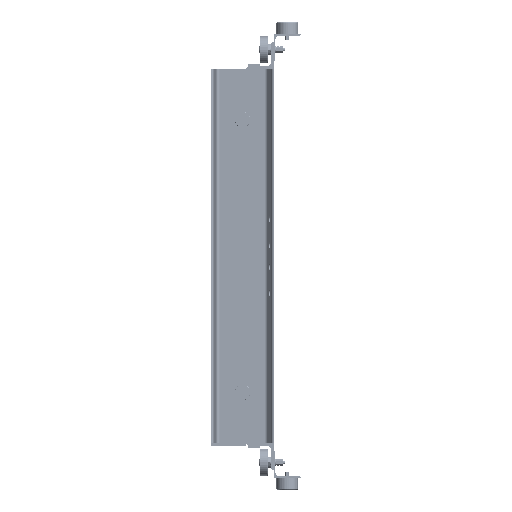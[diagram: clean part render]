
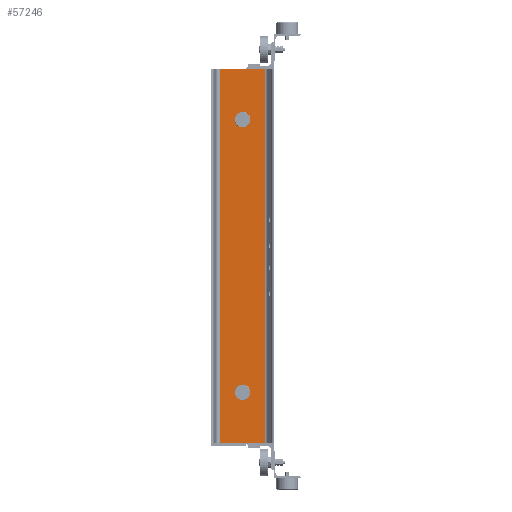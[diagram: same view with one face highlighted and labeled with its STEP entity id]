
A CAD part, left-side view. The second image highlights one B-rep face of the part: STEP entity #57246.
In plain terms, the highlighted planar face has unit normal (-1, 0, 0) as drawn and (1, 0, 0) by its records, which use the part's own axes.
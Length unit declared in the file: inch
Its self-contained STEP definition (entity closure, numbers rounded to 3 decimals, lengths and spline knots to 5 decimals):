
#85 = DIRECTION ( 'NONE',  ( 1., 0., 0. ) ) ;
#327 = VERTEX_POINT ( 'NONE', #28426 ) ;
#1412 = ORIENTED_EDGE ( 'NONE', *, *, #12245, .F. ) ;
#1446 = CIRCLE ( 'NONE', #5517, 0.8875 ) ;
#1557 = CARTESIAN_POINT ( 'NONE',  ( 0.353, 6.85768, 24. ) ) ;
#2088 = DIRECTION ( 'NONE',  ( 1., 0., 0. ) ) ;
#2338 = EDGE_LOOP ( 'NONE', ( #22448, #60512 ) ) ;
#2880 = EDGE_CURVE ( 'NONE', #58710, #41810, #34032, .T. ) ;
#4275 = CARTESIAN_POINT ( 'NONE',  ( 0.353, 3.0835, 17.5 ) ) ;
#5291 = LINE ( 'NONE', #14159, #15564 ) ;
#5517 = AXIS2_PLACEMENT_3D ( 'NONE', #25559, #45228, #17035 ) ;
#5589 = EDGE_CURVE ( 'NONE', #23681, #51299, #8603, .T. ) ;
#6845 = VECTOR ( 'NONE', #50460, 39.37008 ) ;
#8603 = LINE ( 'NONE', #41838, #33223 ) ;
#9144 = ORIENTED_EDGE ( 'NONE', *, *, #5589, .T. ) ;
#11403 = VECTOR ( 'NONE', #32451, 39.37008 ) ;
#12245 = EDGE_CURVE ( 'NONE', #57092, #12302, #46872, .T. ) ;
#12302 = VERTEX_POINT ( 'NONE', #57667 ) ;
#12693 = CARTESIAN_POINT ( 'NONE',  ( 0.353, 4.8585, 17.5 ) ) ;
#12778 = CARTESIAN_POINT ( 'NONE',  ( 0.353, 1.14232, 24. ) ) ;
#13792 = LINE ( 'NONE', #47033, #11403 ) ;
#14159 = CARTESIAN_POINT ( 'NONE',  ( 0.353, 6.85768, -24. ) ) ;
#14300 = DIRECTION ( 'NONE',  ( 1., 0., 0. ) ) ;
#15094 = CARTESIAN_POINT ( 'NONE',  ( 0.353, 3.0835, -17.5 ) ) ;
#15564 = VECTOR ( 'NONE', #19492, 39.37008 ) ;
#16309 = CARTESIAN_POINT ( 'NONE',  ( 0.353, 6.85768, 24. ) ) ;
#17035 = DIRECTION ( 'NONE',  ( 0., 1., 0. ) ) ;
#17462 = DIRECTION ( 'NONE',  ( 0., -1., 0. ) ) ;
#19492 = DIRECTION ( 'NONE',  ( 0., -1., 0. ) ) ;
#21370 = DIRECTION ( 'NONE',  ( 0., 1., 0. ) ) ;
#21687 = CIRCLE ( 'NONE', #51049, 0.8875 ) ;
#22367 = EDGE_CURVE ( 'NONE', #61472, #327, #5291, .T. ) ;
#22378 = CARTESIAN_POINT ( 'NONE',  ( 0.353, 6.85768, -24. ) ) ;
#22448 = ORIENTED_EDGE ( 'NONE', *, *, #27824, .F. ) ;
#23295 = ORIENTED_EDGE ( 'NONE', *, *, #45068, .F. ) ;
#23681 = VERTEX_POINT ( 'NONE', #1557 ) ;
#24447 = ORIENTED_EDGE ( 'NONE', *, *, #40458, .F. ) ;
#24605 = AXIS2_PLACEMENT_3D ( 'NONE', #53228, #14300, #41614 ) ;
#25559 = CARTESIAN_POINT ( 'NONE',  ( 0.353, 3.971, -17.5 ) ) ;
#26238 = ORIENTED_EDGE ( 'NONE', *, *, #31190, .T. ) ;
#26647 = LINE ( 'NONE', #12778, #6845 ) ;
#27824 = EDGE_CURVE ( 'NONE', #41810, #58710, #21687, .T. ) ;
#28426 = CARTESIAN_POINT ( 'NONE',  ( 0.353, 1.14232, -24. ) ) ;
#31190 = EDGE_CURVE ( 'NONE', #51299, #327, #26647, .T. ) ;
#31927 = EDGE_LOOP ( 'NONE', ( #46890, #24447, #9144, #26238 ) ) ;
#32451 = DIRECTION ( 'NONE',  ( 0., 0., -1. ) ) ;
#33223 = VECTOR ( 'NONE', #17462, 39.37008 ) ;
#34032 = CIRCLE ( 'NONE', #58336, 0.8875 ) ;
#34674 = FACE_OUTER_BOUND ( 'NONE', #31927, .T. ) ;
#36830 = DIRECTION ( 'NONE',  ( 1., 0., 0. ) ) ;
#37720 = CARTESIAN_POINT ( 'NONE',  ( 0.353, 3.971, 17.5 ) ) ;
#40390 = FACE_BOUND ( 'NONE', #52128, .T. ) ;
#40458 = EDGE_CURVE ( 'NONE', #23681, #61472, #13792, .T. ) ;
#41604 = CARTESIAN_POINT ( 'NONE',  ( 0.353, 3.971, 17.5 ) ) ;
#41614 = DIRECTION ( 'NONE',  ( 0., 1., 0. ) ) ;
#41810 = VERTEX_POINT ( 'NONE', #12693 ) ;
#41838 = CARTESIAN_POINT ( 'NONE',  ( 0.353, 6.85768, 24. ) ) ;
#43075 = AXIS2_PLACEMENT_3D ( 'NONE', #16309, #2088, #21370 ) ;
#45068 = EDGE_CURVE ( 'NONE', #12302, #57092, #1446, .T. ) ;
#45228 = DIRECTION ( 'NONE',  ( 1., 0., 0. ) ) ;
#45456 = PLANE ( 'NONE',  #43075 ) ;
#46872 = CIRCLE ( 'NONE', #24605, 0.8875 ) ;
#46890 = ORIENTED_EDGE ( 'NONE', *, *, #22367, .F. ) ;
#46978 = DIRECTION ( 'NONE',  ( 0., 1., 0. ) ) ;
#47033 = CARTESIAN_POINT ( 'NONE',  ( 0.353, 6.85768, 24. ) ) ;
#48119 = CARTESIAN_POINT ( 'NONE',  ( 0.353, 1.14232, 24. ) ) ;
#50460 = DIRECTION ( 'NONE',  ( 0., 0., -1. ) ) ;
#51049 = AXIS2_PLACEMENT_3D ( 'NONE', #37720, #85, #53240 ) ;
#51299 = VERTEX_POINT ( 'NONE', #48119 ) ;
#52128 = EDGE_LOOP ( 'NONE', ( #23295, #1412 ) ) ;
#53228 = CARTESIAN_POINT ( 'NONE',  ( 0.353, 3.971, -17.5 ) ) ;
#53240 = DIRECTION ( 'NONE',  ( 0., 1., 0. ) ) ;
#57092 = VERTEX_POINT ( 'NONE', #15094 ) ;
#57246 = ADVANCED_FACE ( 'NONE', ( #40390, #59694, #34674 ), #45456, .T. ) ;
#57667 = CARTESIAN_POINT ( 'NONE',  ( 0.353, 4.8585, -17.5 ) ) ;
#58336 = AXIS2_PLACEMENT_3D ( 'NONE', #41604, #36830, #46978 ) ;
#58710 = VERTEX_POINT ( 'NONE', #4275 ) ;
#59694 = FACE_BOUND ( 'NONE', #2338, .T. ) ;
#60512 = ORIENTED_EDGE ( 'NONE', *, *, #2880, .F. ) ;
#61472 = VERTEX_POINT ( 'NONE', #22378 ) ;
